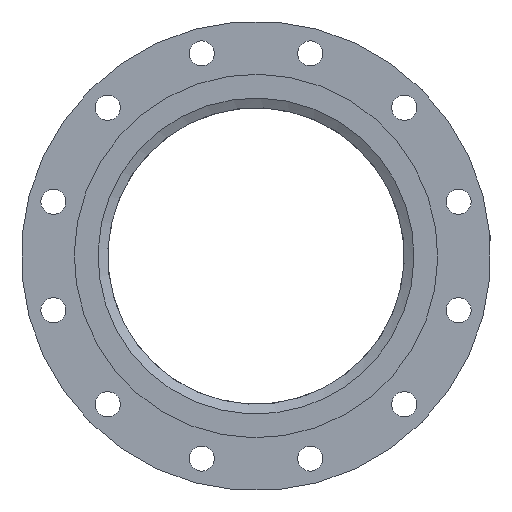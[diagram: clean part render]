
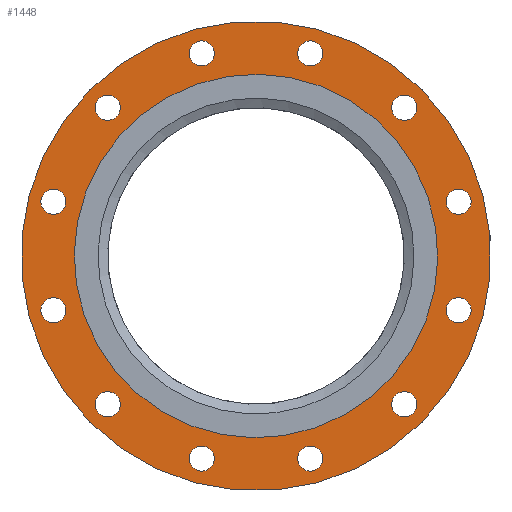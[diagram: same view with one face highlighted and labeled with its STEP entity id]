
A CAD part, front view. The second image highlights one B-rep face of the part: STEP entity #1448.
In plain terms, the highlighted planar face has unit normal (0, -1, 0).
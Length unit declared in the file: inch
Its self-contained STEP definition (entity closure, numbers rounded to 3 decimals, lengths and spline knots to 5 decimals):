
#50=PLANE('',#1590);
#128=FACE_BOUND('',#413,.T.);
#129=FACE_BOUND('',#414,.T.);
#130=FACE_BOUND('',#415,.T.);
#131=FACE_BOUND('',#416,.T.);
#132=FACE_BOUND('',#417,.T.);
#133=FACE_BOUND('',#418,.T.);
#134=FACE_BOUND('',#419,.T.);
#135=FACE_BOUND('',#420,.T.);
#136=FACE_BOUND('',#421,.T.);
#137=FACE_BOUND('',#422,.T.);
#138=FACE_BOUND('',#423,.T.);
#139=FACE_BOUND('',#424,.T.);
#140=FACE_BOUND('',#425,.T.);
#261=FACE_OUTER_BOUND('',#412,.T.);
#412=EDGE_LOOP('',(#1077));
#413=EDGE_LOOP('',(#1078));
#414=EDGE_LOOP('',(#1079));
#415=EDGE_LOOP('',(#1080));
#416=EDGE_LOOP('',(#1081));
#417=EDGE_LOOP('',(#1082));
#418=EDGE_LOOP('',(#1083));
#419=EDGE_LOOP('',(#1084));
#420=EDGE_LOOP('',(#1085));
#421=EDGE_LOOP('',(#1086));
#422=EDGE_LOOP('',(#1087));
#423=EDGE_LOOP('',(#1088));
#424=EDGE_LOOP('',(#1089));
#425=EDGE_LOOP('',(#1090));
#649=CIRCLE('',#1591,10.5);
#650=CIRCLE('',#1592,0.5625);
#651=CIRCLE('',#1593,0.5625);
#652=CIRCLE('',#1594,0.5625);
#653=CIRCLE('',#1595,0.5625);
#654=CIRCLE('',#1596,0.5625);
#655=CIRCLE('',#1597,0.5625);
#656=CIRCLE('',#1598,0.5625);
#657=CIRCLE('',#1599,0.5625);
#658=CIRCLE('',#1600,0.5625);
#659=CIRCLE('',#1601,0.5625);
#660=CIRCLE('',#1602,0.5625);
#661=CIRCLE('',#1603,0.5625);
#662=CIRCLE('',#1604,8.125);
#782=VERTEX_POINT('',#2351);
#783=VERTEX_POINT('',#2353);
#784=VERTEX_POINT('',#2355);
#785=VERTEX_POINT('',#2357);
#786=VERTEX_POINT('',#2359);
#787=VERTEX_POINT('',#2361);
#788=VERTEX_POINT('',#2363);
#789=VERTEX_POINT('',#2365);
#790=VERTEX_POINT('',#2367);
#791=VERTEX_POINT('',#2369);
#792=VERTEX_POINT('',#2371);
#793=VERTEX_POINT('',#2373);
#794=VERTEX_POINT('',#2375);
#795=VERTEX_POINT('',#2377);
#915=EDGE_CURVE('',#782,#782,#649,.T.);
#916=EDGE_CURVE('',#783,#783,#650,.T.);
#917=EDGE_CURVE('',#784,#784,#651,.T.);
#918=EDGE_CURVE('',#785,#785,#652,.T.);
#919=EDGE_CURVE('',#786,#786,#653,.T.);
#920=EDGE_CURVE('',#787,#787,#654,.T.);
#921=EDGE_CURVE('',#788,#788,#655,.T.);
#922=EDGE_CURVE('',#789,#789,#656,.T.);
#923=EDGE_CURVE('',#790,#790,#657,.T.);
#924=EDGE_CURVE('',#791,#791,#658,.T.);
#925=EDGE_CURVE('',#792,#792,#659,.T.);
#926=EDGE_CURVE('',#793,#793,#660,.T.);
#927=EDGE_CURVE('',#794,#794,#661,.T.);
#928=EDGE_CURVE('',#795,#795,#662,.T.);
#1077=ORIENTED_EDGE('',*,*,#915,.T.);
#1078=ORIENTED_EDGE('',*,*,#916,.T.);
#1079=ORIENTED_EDGE('',*,*,#917,.T.);
#1080=ORIENTED_EDGE('',*,*,#918,.T.);
#1081=ORIENTED_EDGE('',*,*,#919,.T.);
#1082=ORIENTED_EDGE('',*,*,#920,.T.);
#1083=ORIENTED_EDGE('',*,*,#921,.T.);
#1084=ORIENTED_EDGE('',*,*,#922,.T.);
#1085=ORIENTED_EDGE('',*,*,#923,.T.);
#1086=ORIENTED_EDGE('',*,*,#924,.T.);
#1087=ORIENTED_EDGE('',*,*,#925,.T.);
#1088=ORIENTED_EDGE('',*,*,#926,.T.);
#1089=ORIENTED_EDGE('',*,*,#927,.T.);
#1090=ORIENTED_EDGE('',*,*,#928,.F.);
#1448=ADVANCED_FACE('',(#261,#128,#129,#130,#131,#132,#133,#134,#135,#136,
#137,#138,#139,#140),#50,.T.);
#1590=AXIS2_PLACEMENT_3D('',#2350,#1883,#1884);
#1591=AXIS2_PLACEMENT_3D('',#2352,#1885,#1886);
#1592=AXIS2_PLACEMENT_3D('',#2354,#1887,#1888);
#1593=AXIS2_PLACEMENT_3D('',#2356,#1889,#1890);
#1594=AXIS2_PLACEMENT_3D('',#2358,#1891,#1892);
#1595=AXIS2_PLACEMENT_3D('',#2360,#1893,#1894);
#1596=AXIS2_PLACEMENT_3D('',#2362,#1895,#1896);
#1597=AXIS2_PLACEMENT_3D('',#2364,#1897,#1898);
#1598=AXIS2_PLACEMENT_3D('',#2366,#1899,#1900);
#1599=AXIS2_PLACEMENT_3D('',#2368,#1901,#1902);
#1600=AXIS2_PLACEMENT_3D('',#2370,#1903,#1904);
#1601=AXIS2_PLACEMENT_3D('',#2372,#1905,#1906);
#1602=AXIS2_PLACEMENT_3D('',#2374,#1907,#1908);
#1603=AXIS2_PLACEMENT_3D('',#2376,#1909,#1910);
#1604=AXIS2_PLACEMENT_3D('',#2378,#1911,#1912);
#1883=DIRECTION('center_axis',(0.,-1.,0.));
#1884=DIRECTION('ref_axis',(-0.966,0.,0.259));
#1885=DIRECTION('center_axis',(0.,-1.,0.));
#1886=DIRECTION('ref_axis',(-0.966,0.,0.259));
#1887=DIRECTION('center_axis',(0.,1.,0.));
#1888=DIRECTION('ref_axis',(-0.966,0.,-0.259));
#1889=DIRECTION('center_axis',(0.,1.,0.));
#1890=DIRECTION('ref_axis',(-0.707,0.,-0.707));
#1891=DIRECTION('center_axis',(0.,1.,0.));
#1892=DIRECTION('ref_axis',(-0.259,0.,-0.966));
#1893=DIRECTION('center_axis',(0.,1.,0.));
#1894=DIRECTION('ref_axis',(0.259,0.,-0.966));
#1895=DIRECTION('center_axis',(0.,1.,0.));
#1896=DIRECTION('ref_axis',(0.707,0.,-0.707));
#1897=DIRECTION('center_axis',(0.,1.,0.));
#1898=DIRECTION('ref_axis',(0.966,0.,-0.259));
#1899=DIRECTION('center_axis',(0.,1.,0.));
#1900=DIRECTION('ref_axis',(0.966,0.,0.259));
#1901=DIRECTION('center_axis',(0.,1.,0.));
#1902=DIRECTION('ref_axis',(0.707,0.,0.707));
#1903=DIRECTION('center_axis',(0.,1.,0.));
#1904=DIRECTION('ref_axis',(0.259,0.,0.966));
#1905=DIRECTION('center_axis',(0.,1.,0.));
#1906=DIRECTION('ref_axis',(-0.259,0.,0.966));
#1907=DIRECTION('center_axis',(0.,1.,0.));
#1908=DIRECTION('ref_axis',(-0.707,0.,0.707));
#1909=DIRECTION('center_axis',(0.,1.,0.));
#1910=DIRECTION('ref_axis',(-0.966,0.,0.259));
#1911=DIRECTION('center_axis',(0.,-1.,0.));
#1912=DIRECTION('ref_axis',(-0.857,0.,0.515));
#2350=CARTESIAN_POINT('Origin',(0.,0.375,
0.));
#2351=CARTESIAN_POINT('',(10.14222,0.375,-2.7176));
#2352=CARTESIAN_POINT('Origin',(0.,0.375,
0.));
#2353=CARTESIAN_POINT('',(1.8831,0.375,-9.20114));
#2354=CARTESIAN_POINT('Origin',(2.42643,0.375,-9.05555));
#2355=CARTESIAN_POINT('',(6.23138,0.375,-7.02687));
#2356=CARTESIAN_POINT('Origin',(6.62913,0.375,-6.62913));
#2357=CARTESIAN_POINT('',(8.90997,0.375,-2.96976));
#2358=CARTESIAN_POINT('Origin',(9.05555,0.375,-2.42643));
#2359=CARTESIAN_POINT('',(9.20114,0.375,1.8831));
#2360=CARTESIAN_POINT('Origin',(9.05555,0.375,2.42643));
#2361=CARTESIAN_POINT('',(7.02687,0.375,6.23138));
#2362=CARTESIAN_POINT('Origin',(6.62913,0.375,6.62913));
#2363=CARTESIAN_POINT('',(2.96976,0.375,8.90997));
#2364=CARTESIAN_POINT('Origin',(2.42643,0.375,9.05555));
#2365=CARTESIAN_POINT('',(-1.8831,0.375,9.20114));
#2366=CARTESIAN_POINT('Origin',(-2.42643,0.375,9.05555));
#2367=CARTESIAN_POINT('',(-6.23138,0.375,7.02687));
#2368=CARTESIAN_POINT('Origin',(-6.62913,0.375,6.62913));
#2369=CARTESIAN_POINT('',(-8.90997,0.375,2.96976));
#2370=CARTESIAN_POINT('Origin',(-9.05555,0.375,2.42643));
#2371=CARTESIAN_POINT('',(-9.20114,0.375,-1.8831));
#2372=CARTESIAN_POINT('Origin',(-9.05555,0.375,-2.42643));
#2373=CARTESIAN_POINT('',(-7.02687,0.375,-6.23138));
#2374=CARTESIAN_POINT('Origin',(-6.62913,0.375,-6.62913));
#2375=CARTESIAN_POINT('',(-2.96976,0.375,-8.90997));
#2376=CARTESIAN_POINT('Origin',(-2.42643,0.375,-9.05555));
#2377=CARTESIAN_POINT('',(6.96665,0.375,-4.18107));
#2378=CARTESIAN_POINT('Origin',(0.,0.375,0.));
